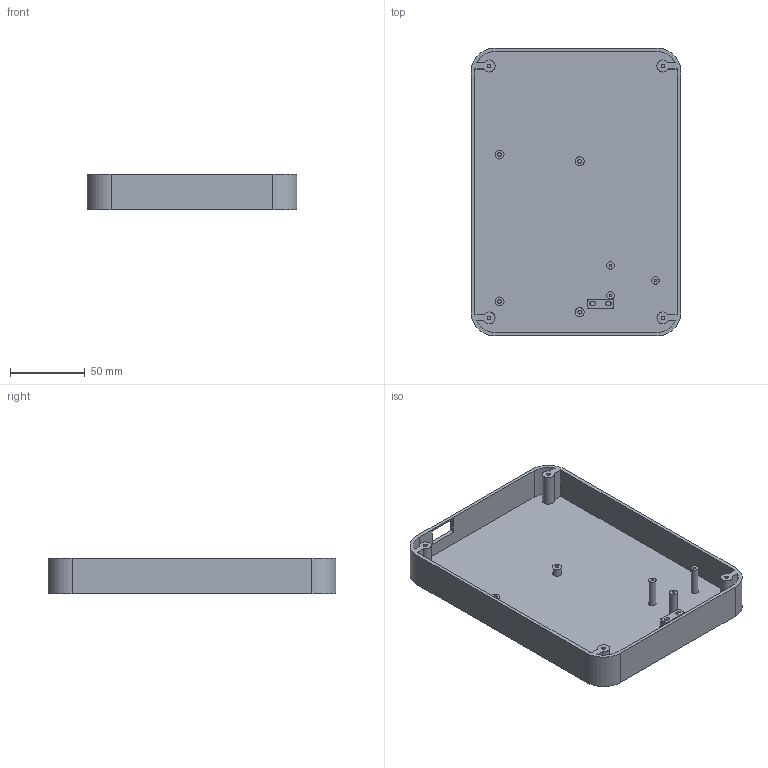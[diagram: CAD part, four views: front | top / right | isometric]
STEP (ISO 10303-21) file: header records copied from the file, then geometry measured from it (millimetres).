
FILE_DESCRIPTION(('Open CASCADE Model'),'2;1');
FILE_NAME('Open CASCADE Shape Model','2026-11-14T12:36:29',('Author'),( 'Open CASCADE'),'Open CASCADE STEP processor 7.9','Open CASCADE 7.9' ,'Unknown');
FILE_SCHEMA(('AUTOMOTIVE_DESIGN { 1 0 10303 214 1 1 1 1 }'));
Length unit declared in the file: millimetre
Products named in the file (1): Open CASCADE STEP translator 7.9 2
Bounding box: 140 x 192 x 24 mm (x, y, z)
Volume: 103702.8 mm3; surface area: 86689.6 mm2
Topology: 1 solids, 1 shells, 106 faces, 261 edges, 174 vertices
Faces by surface type: plane 64, cylinder 42
Full cylindrical faces by diameter (mm): 1.6 x3, 2.5 x8, 5 x3, 6 x4
Entity records: 6571 total; most frequent: CARTESIAN_POINT 1322, DIRECTION 972, ORIENTED_EDGE 522, PCURVE 522, DEFINITIONAL_REPRESENTATION 522, LINE 507, VECTOR 507, EDGE_CURVE 261
